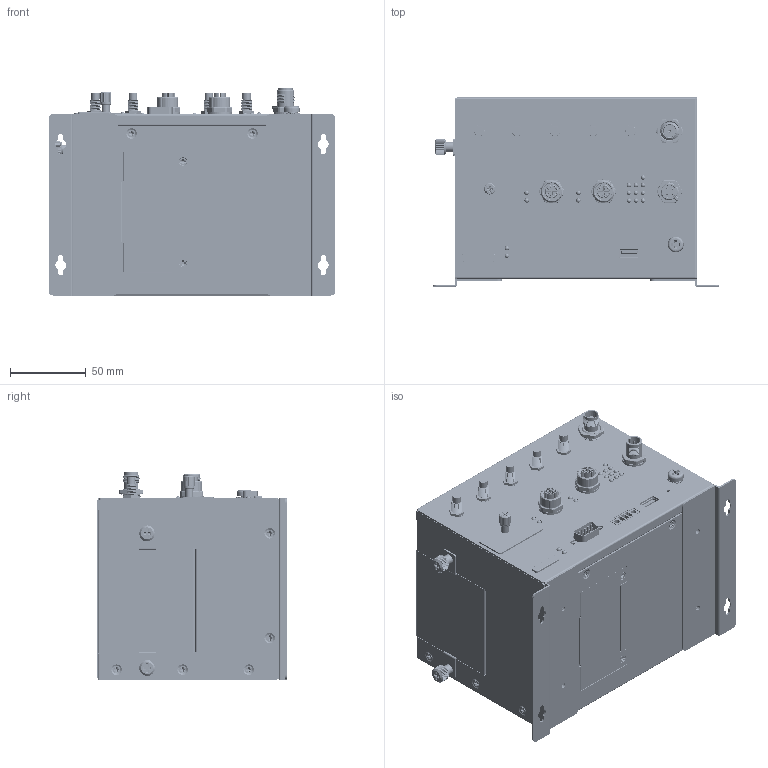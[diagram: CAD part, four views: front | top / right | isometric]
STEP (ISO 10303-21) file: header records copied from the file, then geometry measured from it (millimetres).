
FILE_DESCRIPTION((''),'2;1');
FILE_NAME('UC-8540_SYSTEM_20180817','2018-08-17T',('VicWM_Chen'),(''),'PRO/ENGINEER BY PARAMETRIC TECHNOLOGY CORPORATION, 2017170','PRO/ENGINEER BY PARAMETRIC TECHNOLOGY CORPORATION, 2017170','');
FILE_SCHEMA(('CONFIG_CONTROL_DESIGN'));
Products named in the file (1): UC-8540_SYSTEM_20180817
Bounding box: 189.6 x 125 x 136.9 mm (x, y, z)
Volume: 113781 mm3; surface area: 423056 mm2
Topology: 59 solids, 147 shells, 13733 faces, 37175 edges, 23788 vertices
Faces by surface type: plane 6926, cylinder 4617, bspline 852, cone 594, torus 525, sphere 150, extrusion 69
Entity records: 624675 total; most frequent: CARTESIAN_POINT 164489, ORIENTED_EDGE 73537, DIRECTION 66836, EDGE_CURVE 37063, PRESENTATION_STYLE_ASSIGNMENT 29623, STYLED_ITEM 27607, VERTEX_POINT 23788, AXIS2_PLACEMENT_3D 22460
